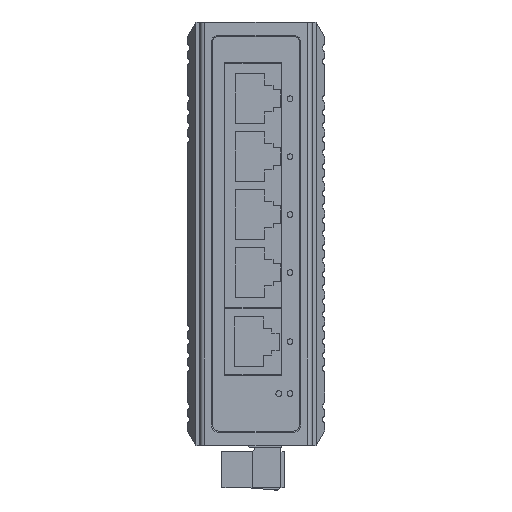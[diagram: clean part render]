
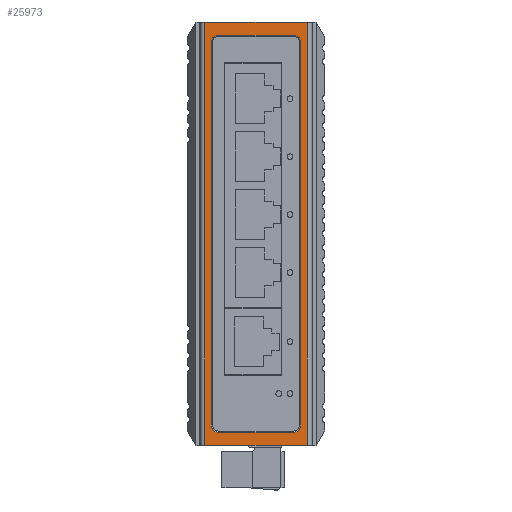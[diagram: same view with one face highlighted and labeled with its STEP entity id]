
A CAD part, left-side view. The second image highlights one B-rep face of the part: STEP entity #25973.
In plain terms, the highlighted planar face has unit normal (-1, 0, 0).
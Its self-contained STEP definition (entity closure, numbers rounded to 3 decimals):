
#280 = ORIENTED_EDGE ( 'NONE', *, *, #7402, .T. ) ;
#488 = ORIENTED_EDGE ( 'NONE', *, *, #7351, .T. ) ;
#604 = DIRECTION ( 'NONE',  ( 0., 0., 1. ) ) ;
#1204 = VECTOR ( 'NONE', #29840, 1000. ) ;
#1514 = AXIS2_PLACEMENT_3D ( 'NONE', #19751, #5430, #22070 ) ;
#1910 = CARTESIAN_POINT ( 'NONE',  ( -89.68, 14.691, -47.8 ) ) ;
#2489 = CIRCLE ( 'NONE', #1514, 1.8 ) ;
#2587 = CARTESIAN_POINT ( 'NONE',  ( -89.68, 32.691, -46. ) ) ;
#3077 = AXIS2_PLACEMENT_3D ( 'NONE', #10035, #26322, #12495 ) ;
#3159 = CARTESIAN_POINT ( 'NONE',  ( -89.68, 32.691, -47.8 ) ) ;
#3309 = AXIS2_PLACEMENT_3D ( 'NONE', #7700, #24164, #10132 ) ;
#3774 = AXIS2_PLACEMENT_3D ( 'NONE', #2587, #19362, #5024 ) ;
#3785 = ORIENTED_EDGE ( 'NONE', *, *, #11152, .T. ) ;
#4262 = VERTEX_POINT ( 'NONE', #29451 ) ;
#4469 = ORIENTED_EDGE ( 'NONE', *, *, #7320, .T. ) ;
#4480 = CARTESIAN_POINT ( 'NONE',  ( -89.68, 34.491, -46. ) ) ;
#4767 = VECTOR ( 'NONE', #9928, 1000. ) ;
#5024 = DIRECTION ( 'NONE',  ( 0., -1., 0. ) ) ;
#5216 = LINE ( 'NONE', #14532, #28732 ) ;
#5430 = DIRECTION ( 'NONE',  ( 1., 0., 0. ) ) ;
#5638 = VERTEX_POINT ( 'NONE', #7289 ) ;
#7289 = CARTESIAN_POINT ( 'NONE',  ( -89.68, 32.691, 47.8 ) ) ;
#7316 = EDGE_CURVE ( 'NONE', #30136, #25770, #12783, .T. ) ;
#7320 = EDGE_CURVE ( 'NONE', #20555, #30136, #29692, .T. ) ;
#7351 = EDGE_CURVE ( 'NONE', #11469, #20555, #23703, .T. ) ;
#7356 = EDGE_CURVE ( 'NONE', #4262, #11469, #28999, .T. ) ;
#7361 = EDGE_CURVE ( 'NONE', #28663, #4262, #16158, .T. ) ;
#7397 = EDGE_CURVE ( 'NONE', #5638, #28663, #8962, .T. ) ;
#7402 = EDGE_CURVE ( 'NONE', #24895, #5638, #2489, .T. ) ;
#7411 = EDGE_CURVE ( 'NONE', #25770, #24895, #20086, .T. ) ;
#7476 = CARTESIAN_POINT ( 'NONE',  ( -89.68, 32.691, -47.8 ) ) ;
#7539 = LINE ( 'NONE', #27790, #25513 ) ;
#7568 = CARTESIAN_POINT ( 'NONE',  ( -89.68, 36.091, -50.9 ) ) ;
#7700 = CARTESIAN_POINT ( 'NONE',  ( -89.68, 14.691, 46. ) ) ;
#8120 = FACE_BOUND ( 'NONE', #17417, .T. ) ;
#8192 = VECTOR ( 'NONE', #604, 1000. ) ;
#8495 = VERTEX_POINT ( 'NONE', #8777 ) ;
#8777 = CARTESIAN_POINT ( 'NONE',  ( -89.68, 36.091, 50.9 ) ) ;
#8962 = LINE ( 'NONE', #10234, #10487 ) ;
#8981 = DIRECTION ( 'NONE',  ( 0., -1., 0. ) ) ;
#9754 = DIRECTION ( 'NONE',  ( 0., 0., 1. ) ) ;
#9928 = DIRECTION ( 'NONE',  ( 0., 1., 0. ) ) ;
#10035 = CARTESIAN_POINT ( 'NONE',  ( -89.68, 14.691, -46. ) ) ;
#10132 = DIRECTION ( 'NONE',  ( 0., -1., 0. ) ) ;
#10234 = CARTESIAN_POINT ( 'NONE',  ( -89.68, 14.691, 47.8 ) ) ;
#10358 = ORIENTED_EDGE ( 'NONE', *, *, #7356, .T. ) ;
#10487 = VECTOR ( 'NONE', #26515, 1000. ) ;
#11057 = EDGE_CURVE ( 'NONE', #18538, #25942, #7539, .T. ) ;
#11152 = EDGE_CURVE ( 'NONE', #18538, #13398, #5216, .T. ) ;
#11469 = VERTEX_POINT ( 'NONE', #29904 ) ;
#12495 = DIRECTION ( 'NONE',  ( 0., -1., 0. ) ) ;
#12543 = ORIENTED_EDGE ( 'NONE', *, *, #15353, .T. ) ;
#12783 = CIRCLE ( 'NONE', #3774, 1.8 ) ;
#13087 = ORIENTED_EDGE ( 'NONE', *, *, #7316, .T. ) ;
#13398 = VERTEX_POINT ( 'NONE', #15224 ) ;
#13763 = CARTESIAN_POINT ( 'NONE',  ( -89.68, 50.048, 50.9 ) ) ;
#14153 = LINE ( 'NONE', #13763, #26372 ) ;
#14183 = LINE ( 'NONE', #27573, #1204 ) ;
#14301 = ORIENTED_EDGE ( 'NONE', *, *, #7411, .T. ) ;
#14532 = CARTESIAN_POINT ( 'NONE',  ( -89.68, 11.291, -51. ) ) ;
#14591 = FACE_OUTER_BOUND ( 'NONE', #27463, .T. ) ;
#14992 = CARTESIAN_POINT ( 'NONE',  ( -89.68, 23.691, 0. ) ) ;
#15224 = CARTESIAN_POINT ( 'NONE',  ( -89.68, 11.291, 50.9 ) ) ;
#15353 = EDGE_CURVE ( 'NONE', #8495, #25942, #14183, .T. ) ;
#15713 = EDGE_CURVE ( 'NONE', #8495, #13398, #14153, .T. ) ;
#16158 = CIRCLE ( 'NONE', #3309, 1.8 ) ;
#17179 = DIRECTION ( 'NONE',  ( 0., 0., -1. ) ) ;
#17346 = DIRECTION ( 'NONE',  ( 0., -1., 0. ) ) ;
#17417 = EDGE_LOOP ( 'NONE', ( #14301, #280, #21166, #26686, #10358, #488, #4469, #13087 ) ) ;
#17465 = CARTESIAN_POINT ( 'NONE',  ( -89.68, 34.491, 46. ) ) ;
#18538 = VERTEX_POINT ( 'NONE', #25151 ) ;
#19362 = DIRECTION ( 'NONE',  ( 1., 0., 0. ) ) ;
#19450 = CARTESIAN_POINT ( 'NONE',  ( -89.68, 12.891, -46. ) ) ;
#19751 = CARTESIAN_POINT ( 'NONE',  ( -89.68, 32.691, 46. ) ) ;
#20086 = LINE ( 'NONE', #17465, #8192 ) ;
#20555 = VERTEX_POINT ( 'NONE', #1910 ) ;
#21112 = CARTESIAN_POINT ( 'NONE',  ( -89.68, 14.691, 47.8 ) ) ;
#21166 = ORIENTED_EDGE ( 'NONE', *, *, #7397, .T. ) ;
#22070 = DIRECTION ( 'NONE',  ( 0., -1., 0. ) ) ;
#22243 = VECTOR ( 'NONE', #17179, 1000. ) ;
#23703 = CIRCLE ( 'NONE', #3077, 1.8 ) ;
#24147 = DIRECTION ( 'NONE',  ( -1., 0., 0. ) ) ;
#24164 = DIRECTION ( 'NONE',  ( 1., 0., 0. ) ) ;
#24895 = VERTEX_POINT ( 'NONE', #28231 ) ;
#25151 = CARTESIAN_POINT ( 'NONE',  ( -89.68, 11.291, -50.9 ) ) ;
#25513 = VECTOR ( 'NONE', #30030, 1000. ) ;
#25770 = VERTEX_POINT ( 'NONE', #4480 ) ;
#25942 = VERTEX_POINT ( 'NONE', #7568 ) ;
#25973 = ADVANCED_FACE ( 'NONE', ( #8120, #14591 ), #28709, .T. ) ;
#26322 = DIRECTION ( 'NONE',  ( 1., 0., 0. ) ) ;
#26372 = VECTOR ( 'NONE', #8981, 1000. ) ;
#26515 = DIRECTION ( 'NONE',  ( 0., -1., 0. ) ) ;
#26686 = ORIENTED_EDGE ( 'NONE', *, *, #7361, .T. ) ;
#27387 = ORIENTED_EDGE ( 'NONE', *, *, #15713, .F. ) ;
#27463 = EDGE_LOOP ( 'NONE', ( #27387, #12543, #29124, #3785 ) ) ;
#27573 = CARTESIAN_POINT ( 'NONE',  ( -89.68, 36.091, 51. ) ) ;
#27790 = CARTESIAN_POINT ( 'NONE',  ( -89.68, 52.438, -50.9 ) ) ;
#28231 = CARTESIAN_POINT ( 'NONE',  ( -89.68, 34.491, 46. ) ) ;
#28663 = VERTEX_POINT ( 'NONE', #21112 ) ;
#28709 = PLANE ( 'NONE',  #30548 ) ;
#28732 = VECTOR ( 'NONE', #9754, 1000. ) ;
#28999 = LINE ( 'NONE', #19450, #22243 ) ;
#29124 = ORIENTED_EDGE ( 'NONE', *, *, #11057, .F. ) ;
#29451 = CARTESIAN_POINT ( 'NONE',  ( -89.68, 12.891, 46. ) ) ;
#29692 = LINE ( 'NONE', #7476, #4767 ) ;
#29840 = DIRECTION ( 'NONE',  ( 0., 0., -1. ) ) ;
#29904 = CARTESIAN_POINT ( 'NONE',  ( -89.68, 12.891, -46. ) ) ;
#30030 = DIRECTION ( 'NONE',  ( 0., 1., 0. ) ) ;
#30136 = VERTEX_POINT ( 'NONE', #3159 ) ;
#30548 = AXIS2_PLACEMENT_3D ( 'NONE', #14992, #24147, #17346 ) ;
